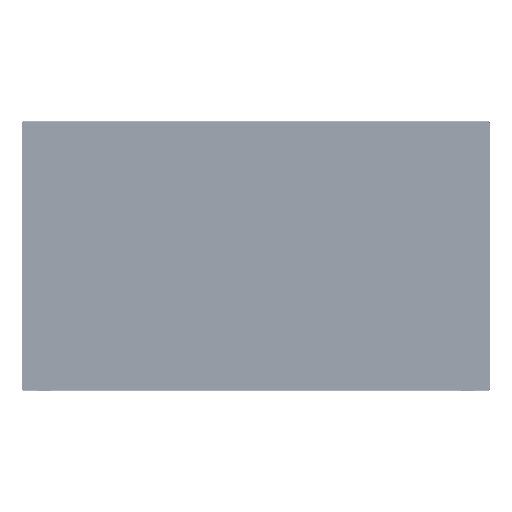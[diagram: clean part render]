
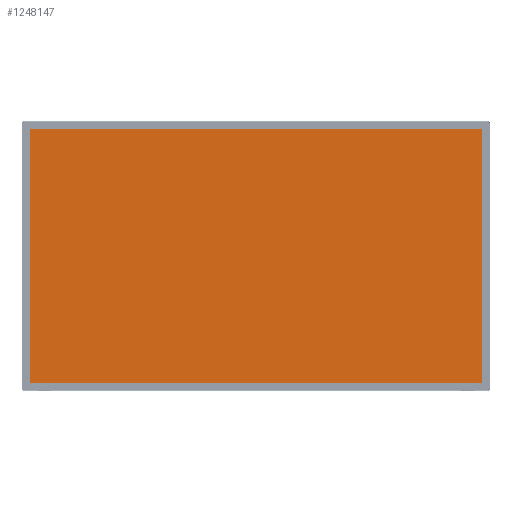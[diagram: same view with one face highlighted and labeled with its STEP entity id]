
A CAD part, top view. The second image highlights one B-rep face of the part: STEP entity #1248147.
In plain terms, the highlighted planar face has unit normal (0, 0, 1).
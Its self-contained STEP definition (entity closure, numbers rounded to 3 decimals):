
#6947 = EDGE_CURVE ( 'NONE', #250784, #656697, #954446, .T. ) ;
#38432 = EDGE_CURVE ( 'NONE', #206898, #660913, #90915, .T. ) ;
#56027 = LINE ( 'NONE', #202034, #645900 ) ;
#90915 = LINE ( 'NONE', #945857, #444306 ) ;
#130304 = VECTOR ( 'NONE', #667292, 1000. ) ;
#163425 = DIRECTION ( 'NONE',  ( 1., 0., 0. ) ) ;
#175570 = CARTESIAN_POINT ( 'NONE',  ( -605.8, 341.2, 1.24 ) ) ;
#178558 = VECTOR ( 'NONE', #163425, 1000. ) ;
#186622 = DIRECTION ( 'NONE',  ( 0., 1., 0. ) ) ;
#202034 = CARTESIAN_POINT ( 'NONE',  ( 605.8, 341.2, 1.24 ) ) ;
#206698 = EDGE_LOOP ( 'NONE', ( #930785, #715347, #1091050, #889288 ) ) ;
#206898 = VERTEX_POINT ( 'NONE', #1158924 ) ;
#210996 = CARTESIAN_POINT ( 'NONE',  ( -605.8, -341.2, 1.24 ) ) ;
#250784 = VERTEX_POINT ( 'NONE', #175570 ) ;
#374112 = CARTESIAN_POINT ( 'NONE',  ( -605.8, 341.2, 1.24 ) ) ;
#391889 = EDGE_CURVE ( 'NONE', #656697, #206898, #1037047, .T. ) ;
#444306 = VECTOR ( 'NONE', #186622, 1000. ) ;
#448720 = FACE_OUTER_BOUND ( 'NONE', #206698, .T. ) ;
#489100 = DIRECTION ( 'NONE',  ( -1., 0., 0. ) ) ;
#633711 = CARTESIAN_POINT ( 'NONE',  ( 0., 0., 1.24 ) ) ;
#645900 = VECTOR ( 'NONE', #489100, 1000. ) ;
#656697 = VERTEX_POINT ( 'NONE', #210996 ) ;
#660913 = VERTEX_POINT ( 'NONE', #781751 ) ;
#667292 = DIRECTION ( 'NONE',  ( 0., -1., 0. ) ) ;
#706973 = EDGE_CURVE ( 'NONE', #660913, #250784, #56027, .T. ) ;
#715347 = ORIENTED_EDGE ( 'NONE', *, *, #38432, .T. ) ;
#781751 = CARTESIAN_POINT ( 'NONE',  ( 605.8, 341.2, 1.24 ) ) ;
#825132 = DIRECTION ( 'NONE',  ( 0., 0., 1. ) ) ;
#843993 = DIRECTION ( 'NONE',  ( 1., 0., 0. ) ) ;
#889288 = ORIENTED_EDGE ( 'NONE', *, *, #6947, .T. ) ;
#930785 = ORIENTED_EDGE ( 'NONE', *, *, #391889, .T. ) ;
#945857 = CARTESIAN_POINT ( 'NONE',  ( 605.8, -341.2, 1.24 ) ) ;
#954446 = LINE ( 'NONE', #374112, #130304 ) ;
#1024453 = CARTESIAN_POINT ( 'NONE',  ( -605.8, -341.2, 1.24 ) ) ;
#1037047 = LINE ( 'NONE', #1024453, #178558 ) ;
#1065903 = AXIS2_PLACEMENT_3D ( 'NONE', #633711, #825132, #843993 ) ;
#1091050 = ORIENTED_EDGE ( 'NONE', *, *, #706973, .T. ) ;
#1130966 = PLANE ( 'NONE',  #1065903 ) ;
#1158924 = CARTESIAN_POINT ( 'NONE',  ( 605.8, -341.2, 1.24 ) ) ;
#1248147 = ADVANCED_FACE ( 'NONE', ( #448720 ), #1130966, .T. ) ;
